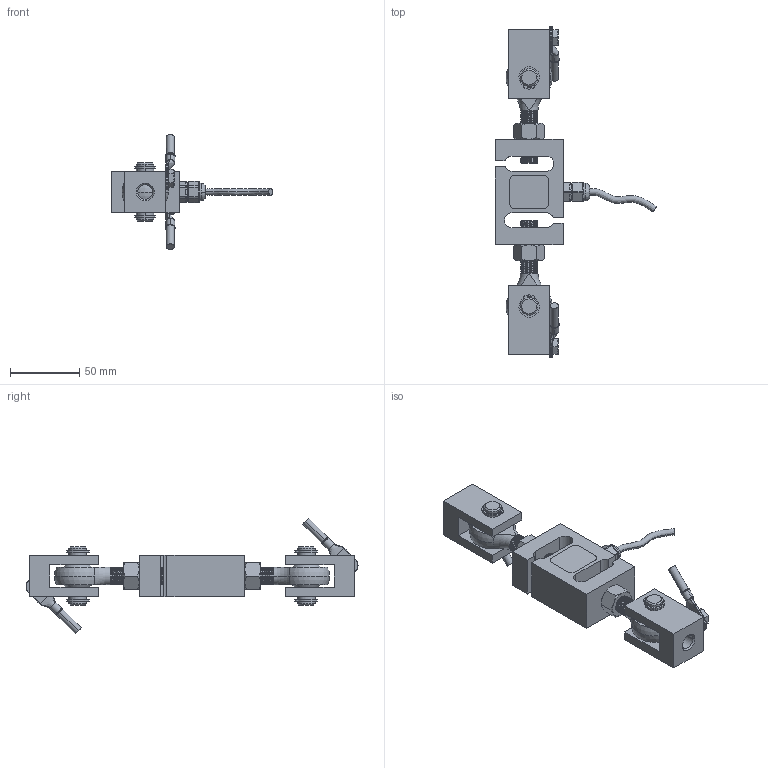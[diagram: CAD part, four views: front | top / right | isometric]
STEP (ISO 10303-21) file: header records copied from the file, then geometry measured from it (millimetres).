
FILE_DESCRIPTION (( 'STEP AP203' ), '1' );
FILE_NAME ('HI LPTLB-220LB-2.2KLB.STEP', '2014-10-14T19:13:59', ( '' ), ( '' ), 'SwSTEP 2.0', 'SolidWorks 2013', '' );
FILE_SCHEMA (( 'CONFIG_CONTROL_DESIGN' ));
Length unit declared in the file: millimetre
Products named in the file (12): HI LPTLB-220LB-2.2KLB; hex finished bolt_ai_HFBOLT 0.25-20x0.375x0.375-C; Ground Strap Lug; Male Rod End_6072K125; Clevis; Clevis Pin; hex nut_ai_HNUT 0.5000-20-D-S; Element Core; Copper; Load Element; heavy duty external retaining ring_am_B27.8M - 3DM1-12; Cable and Adapter
Assembly tree (21 placements, depth 2):
  HI LPTLB-220LB-2.2KLB
    Element Core
    Load Element
    Cable and Adapter
    hex finished bolt_ai_HFBOLT 0.25-20x0.375x0.375-C  x2
    Ground Strap Lug  x2
    Male Rod End_6072K125  x2
    Clevis  x2
    Clevis Pin  x2
    hex nut_ai_HNUT 0.5000-20-D-S  x2
    Copper  x2
    heavy duty external retaining ring_am_B27.8M - 3DM1-12  x4
Bounding box: 116.53 x 239.45 x 83.1 mm (x, y, z)
Volume: 186000.2 mm3; surface area: 72613 mm2
Topology: 27 solids, 27 shells, 1165 faces, 2531 edges, 1422 vertices
Faces by surface type: cylinder 483, cone 416, plane 192, bspline 36, sphere 20, torus 18
Entity records: 25062 total; most frequent: CARTESIAN_POINT 9955, DIRECTION 2937, ORIENTED_EDGE 2738, EDGE_CURVE 1369, AXIS2_PLACEMENT_3D 1156, VERTEX_POINT 775, EDGE_LOOP 668, ADVANCED_FACE 632
